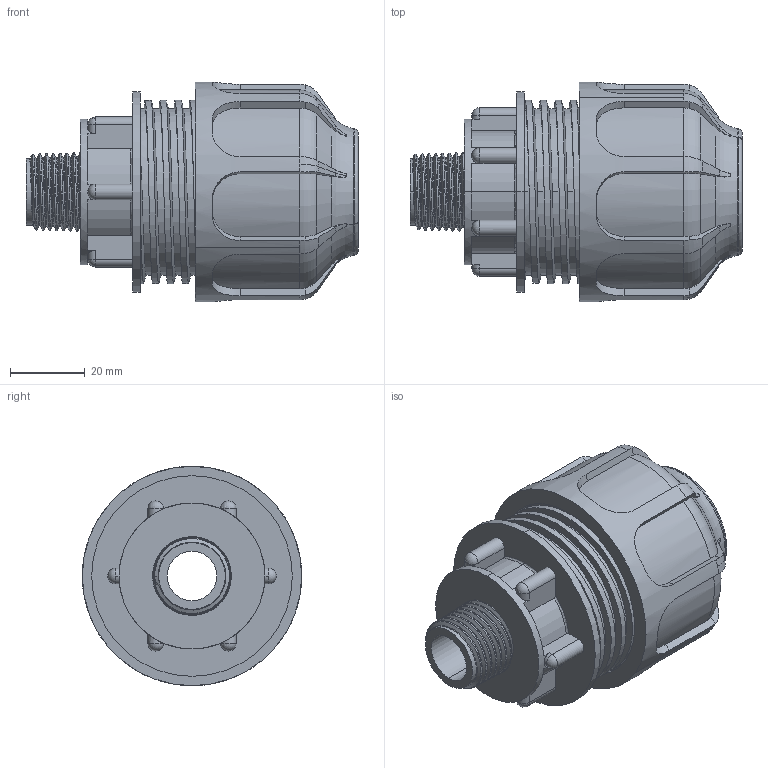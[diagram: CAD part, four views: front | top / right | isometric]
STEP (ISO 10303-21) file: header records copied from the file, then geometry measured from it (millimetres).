
FILE_DESCRIPTION (( 'STEP AP203' ), '1' );
FILE_NAME ('02004.0320.STEP', '2017-05-22T13:48:54', ( '' ), ( '' ), 'SwSTEP 2.0', 'SolidWorks 2011', '' );
FILE_SCHEMA (( 'CONFIG_CONTROL_DESIGN' ));
Length unit declared in the file: millimetre
Products named in the file (3): 02004.0320; 01711_2020; 01770_0320
Assembly tree (2 placements, depth 2):
  02004.0320
    01711_2020
    01770_0320
Bounding box: 88.69 x 58.6 x 58.6 mm (x, y, z)
Volume: 63489.8 mm3; surface area: 50852.9 mm2
Topology: 2 solids, 2 shells, 426 faces, 1394 edges, 971 vertices
Faces by surface type: cylinder 135, plane 130, torus 101, cone 43, bspline 11, sphere 6
Entity records: 27036 total; most frequent: CARTESIAN_POINT 15560, ORIENTED_EDGE 2768, DIRECTION 1894, EDGE_CURVE 1384, VERTEX_POINT 969, AXIS2_PLACEMENT_3D 761, B_SPLINE_CURVE_WITH_KNOTS 601, EDGE_LOOP 437
